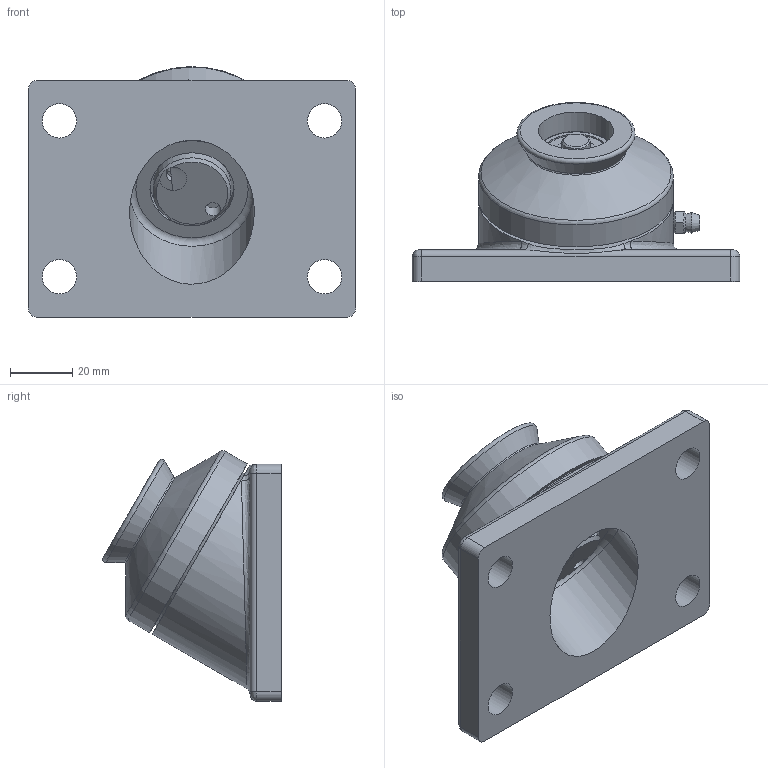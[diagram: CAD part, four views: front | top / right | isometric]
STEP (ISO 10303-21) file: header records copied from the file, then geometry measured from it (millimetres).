
FILE_DESCRIPTION(/* description */ (''),/* implementation_level */ '2;1');
FILE_NAME(/* name */ 'Z:\35-j-ito\製品モデル\SW-K\SW-50-K\HP用\SW-50-K.stp',/* time_stamp */ '2022-04-05T09:06:16+09:00',/* author */ ('j-ito'),/* organization */ (''),/* preprocessor_version */ 'ST-DEVELOPER v18.1',/* originating_system */ 'Autodesk Inventor 2022',/* authorisation */ '');
FILE_SCHEMA (('AUTOMOTIVE_DESIGN { 1 0 10303 214 3 1 1 }'));
Length unit declared in the file: millimetre
Products named in the file (3): SW-50-K; SW-50-K_1; グリスニップル
Assembly tree (2 placements, depth 2):
  SW-50-K
    SW-50-K_1
    グリスニップル
Bounding box: 105 x 57.34 x 80.38 mm (x, y, z)
Volume: 147254.1 mm3; surface area: 41258.5 mm2
Topology: 2 solids, 2 shells, 108 faces, 230 edges, 147 vertices
Faces by surface type: cylinder 38, plane 37, cone 16, torus 9, bspline 8
Full cylindrical faces by diameter (mm): 1.5 x1, 4.2 x1, 4.917 x2, 6 x1, 8.6 x1, 9 x4, 11 x4, 13 x2, 19 x1, 20 x2, 24 x1, 24.1 x1, 25 x1, 27 x1, 30 x1, 40 x1, 47.1 x1, 51 x1, 62.5 x1
Entity records: 3518 total; most frequent: CARTESIAN_POINT 891, DIRECTION 554, ORIENTED_EDGE 458, AXIS2_PLACEMENT_3D 241, EDGE_CURVE 229, VERTEX_POINT 147, EDGE_LOOP 142, CIRCLE 130
